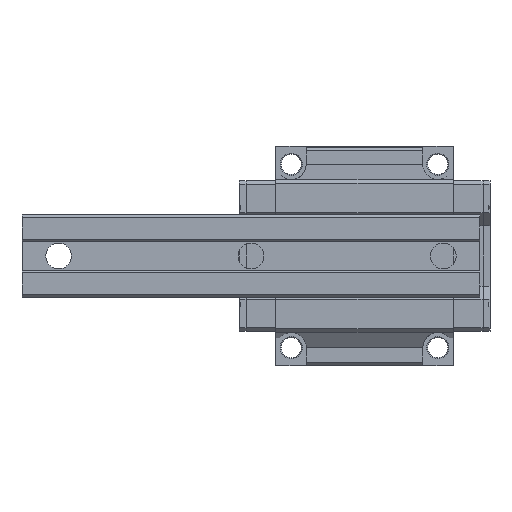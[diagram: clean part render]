
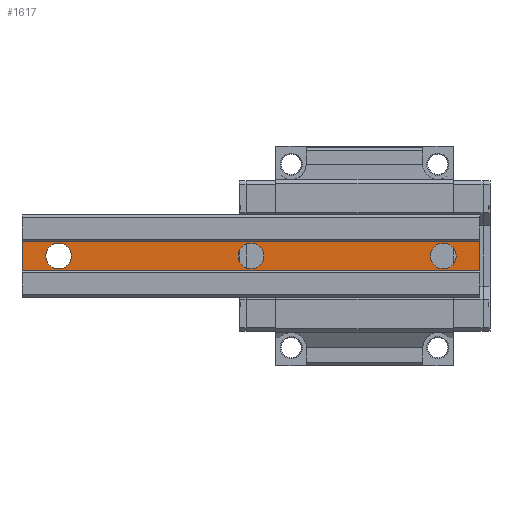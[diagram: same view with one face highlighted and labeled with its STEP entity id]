
A CAD part, front view. The second image highlights one B-rep face of the part: STEP entity #1617.
In plain terms, the highlighted planar face has unit normal (0, -1, 0).
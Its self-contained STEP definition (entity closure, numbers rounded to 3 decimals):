
#1617 = ADVANCED_FACE( '', ( #3226, #3227, #3228, #3229 ), #3230, .T. );
#3226 = FACE_BOUND( '', #4843, .T. );
#3227 = FACE_BOUND( '', #4844, .T. );
#3228 = FACE_BOUND( '', #4845, .T. );
#3229 = FACE_OUTER_BOUND( '', #4846, .T. );
#3230 = PLANE( '', #4847 );
#4843 = EDGE_LOOP( '', ( #9138 ) );
#4844 = EDGE_LOOP( '', ( #9139 ) );
#4845 = EDGE_LOOP( '', ( #9140 ) );
#4846 = EDGE_LOOP( '', ( #9141, #9142, #9143, #9144 ) );
#4847 = AXIS2_PLACEMENT_3D( '', #9145, #9146, #9147 );
#9138 = ORIENTED_EDGE( '', *, *, #10818, .F. );
#9139 = ORIENTED_EDGE( '', *, *, #9443, .F. );
#9140 = ORIENTED_EDGE( '', *, *, #9997, .F. );
#9141 = ORIENTED_EDGE( '', *, *, #10100, .F. );
#9142 = ORIENTED_EDGE( '', *, *, #10979, .F. );
#9143 = ORIENTED_EDGE( '', *, *, #10180, .T. );
#9144 = ORIENTED_EDGE( '', *, *, #9603, .T. );
#9145 = CARTESIAN_POINT( '', ( 125., 1., -8. ) );
#9146 = DIRECTION( '', ( 0., -1., 0. ) );
#9147 = DIRECTION( '', ( 0., 0., -1. ) );
#9443 = EDGE_CURVE( '', #11220, #11220, #11221, .T. );
#9603 = EDGE_CURVE( '', #11503, #11500, #11504, .T. );
#9997 = EDGE_CURVE( '', #12178, #12178, #12179, .T. );
#10100 = EDGE_CURVE( '', #12352, #11500, #12354, .T. );
#10180 = EDGE_CURVE( '', #12483, #11503, #12484, .T. );
#10818 = EDGE_CURVE( '', #13362, #13362, #13363, .T. );
#10979 = EDGE_CURVE( '', #12483, #12352, #13550, .T. );
#11220 = VERTEX_POINT( '', #13842 );
#11221 = CIRCLE( '', #13843, 7. );
#11500 = VERTEX_POINT( '', #14236 );
#11503 = VERTEX_POINT( '', #14240 );
#11504 = LINE( '', #14241, #14242 );
#12178 = VERTEX_POINT( '', #15228 );
#12179 = CIRCLE( '', #15229, 7. );
#12352 = VERTEX_POINT( '', #15477 );
#12354 = LINE( '', #15480, #15481 );
#12483 = VERTEX_POINT( '', #15670 );
#12484 = LINE( '', #15671, #15672 );
#13362 = VERTEX_POINT( '', #17002 );
#13363 = CIRCLE( '', #17003, 7. );
#13550 = LINE( '', #17281, #17282 );
#13842 = CARTESIAN_POINT( '', ( 105., 1., -7. ) );
#13843 = AXIS2_PLACEMENT_3D( '', #17520, #17521, #17522 );
#14236 = CARTESIAN_POINT( '', ( -125., 1., 8. ) );
#14240 = CARTESIAN_POINT( '', ( 125., 1., 8. ) );
#14241 = CARTESIAN_POINT( '', ( 125., 1., 8. ) );
#14242 = VECTOR( '', #17700, 1000. );
#15228 = CARTESIAN_POINT( '', ( 0., 1., -7. ) );
#15229 = AXIS2_PLACEMENT_3D( '', #18145, #18146, #18147 );
#15477 = CARTESIAN_POINT( '', ( -125., 1., -8. ) );
#15480 = CARTESIAN_POINT( '', ( -125., 1., -8. ) );
#15481 = VECTOR( '', #18266, 1000. );
#15670 = CARTESIAN_POINT( '', ( 125., 1., -8. ) );
#15671 = CARTESIAN_POINT( '', ( 125., 1., -8. ) );
#15672 = VECTOR( '', #18339, 1000. );
#17002 = CARTESIAN_POINT( '', ( -105., 1., -7. ) );
#17003 = AXIS2_PLACEMENT_3D( '', #18894, #18895, #18896 );
#17281 = CARTESIAN_POINT( '', ( 125., 1., -8. ) );
#17282 = VECTOR( '', #19015, 1000. );
#17520 = CARTESIAN_POINT( '', ( 105., 1., 0. ) );
#17521 = DIRECTION( '', ( 0., -1., 0. ) );
#17522 = DIRECTION( '', ( 0., 0., -1. ) );
#17700 = DIRECTION( '', ( -1., 0., 0. ) );
#18145 = CARTESIAN_POINT( '', ( 0., 1., 0. ) );
#18146 = DIRECTION( '', ( 0., -1., 0. ) );
#18147 = DIRECTION( '', ( 0., 0., -1. ) );
#18266 = DIRECTION( '', ( 0., 0., 1. ) );
#18339 = DIRECTION( '', ( 0., 0., 1. ) );
#18894 = CARTESIAN_POINT( '', ( -105., 1., 0. ) );
#18895 = DIRECTION( '', ( 0., -1., 0. ) );
#18896 = DIRECTION( '', ( 0., 0., -1. ) );
#19015 = DIRECTION( '', ( -1., 0., 0. ) );
